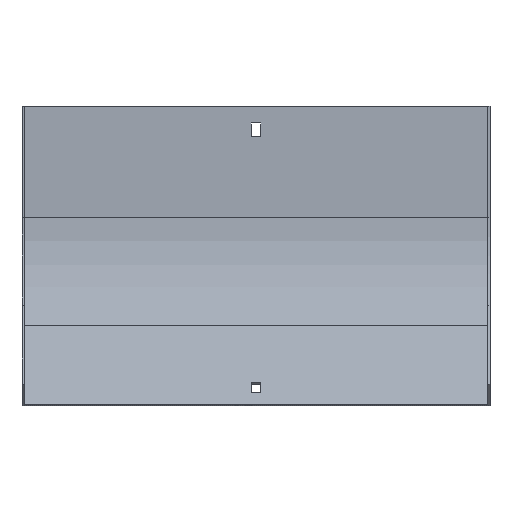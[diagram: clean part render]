
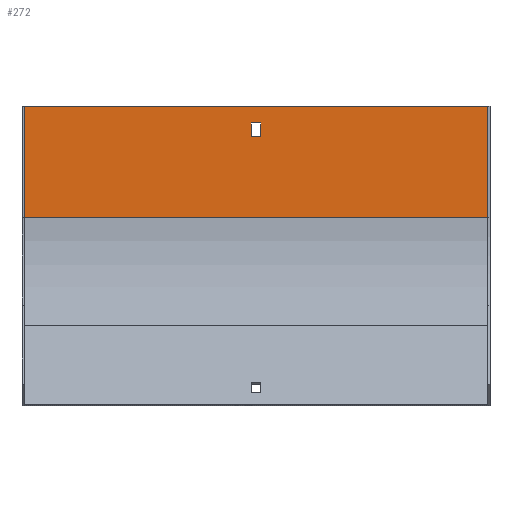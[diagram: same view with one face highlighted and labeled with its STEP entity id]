
A CAD part, front view. The second image highlights one B-rep face of the part: STEP entity #272.
In plain terms, the highlighted planar face has unit normal (0, -1, 0).
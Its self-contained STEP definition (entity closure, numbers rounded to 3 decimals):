
#16 = AXIS2_PLACEMENT_3D ( 'NONE', #369, #226, #18 ) ;
#18 = DIRECTION ( 'NONE',  ( 0., 0., -1. ) ) ;
#64 = VECTOR ( 'NONE', #757, 1000. ) ;
#68 = VECTOR ( 'NONE', #644, 1000. ) ;
#74 = CARTESIAN_POINT ( 'NONE',  ( 3.25, -1.5, -11. ) ) ;
#99 = CARTESIAN_POINT ( 'NONE',  ( 152., -1.5, -73.1 ) ) ;
#100 = EDGE_CURVE ( 'NONE', #102, #589, #203, .T. ) ;
#102 = VERTEX_POINT ( 'NONE', #171 ) ;
#104 = FACE_OUTER_BOUND ( 'NONE', #173, .T. ) ;
#124 = VERTEX_POINT ( 'NONE', #748 ) ;
#127 = ORIENTED_EDGE ( 'NONE', *, *, #860, .F. ) ;
#170 = CARTESIAN_POINT ( 'NONE',  ( -3.25, -1.5, 0. ) ) ;
#171 = CARTESIAN_POINT ( 'NONE',  ( -152., -1.5, -73.1 ) ) ;
#173 = EDGE_LOOP ( 'NONE', ( #782, #404, #765, #746 ) ) ;
#185 = EDGE_CURVE ( 'NONE', #784, #124, #634, .T. ) ;
#203 = LINE ( 'NONE', #483, #539 ) ;
#209 = EDGE_CURVE ( 'NONE', #523, #467, #697, .T. ) ;
#226 = DIRECTION ( 'NONE',  ( 0., -1., 0. ) ) ;
#259 = CARTESIAN_POINT ( 'NONE',  ( -3.25, -1.5, -20. ) ) ;
#272 = ADVANCED_FACE ( 'NONE', ( #446, #104 ), #349, .T. ) ;
#278 = LINE ( 'NONE', #537, #294 ) ;
#294 = VECTOR ( 'NONE', #731, 1000. ) ;
#295 = DIRECTION ( 'NONE',  ( 1., 0., 0. ) ) ;
#309 = CARTESIAN_POINT ( 'NONE',  ( 153.5, -1.5, 0. ) ) ;
#313 = DIRECTION ( 'NONE',  ( -1., 0., 0. ) ) ;
#339 = CARTESIAN_POINT ( 'NONE',  ( -3.25, -1.5, -11. ) ) ;
#346 = CARTESIAN_POINT ( 'NONE',  ( 152., -1.5, 0. ) ) ;
#349 = PLANE ( 'NONE',  #16 ) ;
#350 = LINE ( 'NONE', #698, #434 ) ;
#360 = CARTESIAN_POINT ( 'NONE',  ( 153.5, -1.5, -20. ) ) ;
#369 = CARTESIAN_POINT ( 'NONE',  ( 153.5, -1.5, 0. ) ) ;
#404 = ORIENTED_EDGE ( 'NONE', *, *, #406, .F. ) ;
#406 = EDGE_CURVE ( 'NONE', #523, #102, #278, .T. ) ;
#428 = CARTESIAN_POINT ( 'NONE',  ( 153.5, -1.5, -11. ) ) ;
#434 = VECTOR ( 'NONE', #762, 1000. ) ;
#446 = FACE_BOUND ( 'NONE', #583, .T. ) ;
#462 = LINE ( 'NONE', #309, #484 ) ;
#467 = VERTEX_POINT ( 'NONE', #346 ) ;
#471 = ORIENTED_EDGE ( 'NONE', *, *, #658, .F. ) ;
#483 = CARTESIAN_POINT ( 'NONE',  ( -152., -1.5, -73.1 ) ) ;
#484 = VECTOR ( 'NONE', #313, 1000. ) ;
#516 = CARTESIAN_POINT ( 'NONE',  ( -152., -1.5, 0. ) ) ;
#523 = VERTEX_POINT ( 'NONE', #681 ) ;
#537 = CARTESIAN_POINT ( 'NONE',  ( 153.5, -1.5, -73.1 ) ) ;
#539 = VECTOR ( 'NONE', #733, 1000. ) ;
#549 = VERTEX_POINT ( 'NONE', #74 ) ;
#555 = VERTEX_POINT ( 'NONE', #339 ) ;
#577 = LINE ( 'NONE', #170, #783 ) ;
#579 = ORIENTED_EDGE ( 'NONE', *, *, #185, .F. ) ;
#583 = EDGE_LOOP ( 'NONE', ( #598, #471, #127, #579 ) ) ;
#589 = VERTEX_POINT ( 'NONE', #516 ) ;
#598 = ORIENTED_EDGE ( 'NONE', *, *, #612, .F. ) ;
#612 = EDGE_CURVE ( 'NONE', #555, #784, #577, .T. ) ;
#634 = LINE ( 'NONE', #360, #768 ) ;
#644 = DIRECTION ( 'NONE',  ( -1., 0., 0. ) ) ;
#658 = EDGE_CURVE ( 'NONE', #549, #555, #760, .T. ) ;
#681 = CARTESIAN_POINT ( 'NONE',  ( 152., -1.5, -73.1 ) ) ;
#697 = LINE ( 'NONE', #99, #64 ) ;
#698 = CARTESIAN_POINT ( 'NONE',  ( 3.25, -1.5, 0. ) ) ;
#701 = DIRECTION ( 'NONE',  ( 0., 0., -1. ) ) ;
#706 = EDGE_CURVE ( 'NONE', #467, #589, #462, .T. ) ;
#731 = DIRECTION ( 'NONE',  ( -1., 0., 0. ) ) ;
#733 = DIRECTION ( 'NONE',  ( 0., 0., 1. ) ) ;
#746 = ORIENTED_EDGE ( 'NONE', *, *, #706, .T. ) ;
#748 = CARTESIAN_POINT ( 'NONE',  ( 3.25, -1.5, -20. ) ) ;
#757 = DIRECTION ( 'NONE',  ( 0., 0., 1. ) ) ;
#760 = LINE ( 'NONE', #428, #68 ) ;
#762 = DIRECTION ( 'NONE',  ( 0., 0., 1. ) ) ;
#765 = ORIENTED_EDGE ( 'NONE', *, *, #209, .T. ) ;
#768 = VECTOR ( 'NONE', #295, 1000. ) ;
#782 = ORIENTED_EDGE ( 'NONE', *, *, #100, .F. ) ;
#783 = VECTOR ( 'NONE', #701, 1000. ) ;
#784 = VERTEX_POINT ( 'NONE', #259 ) ;
#860 = EDGE_CURVE ( 'NONE', #124, #549, #350, .T. ) ;
